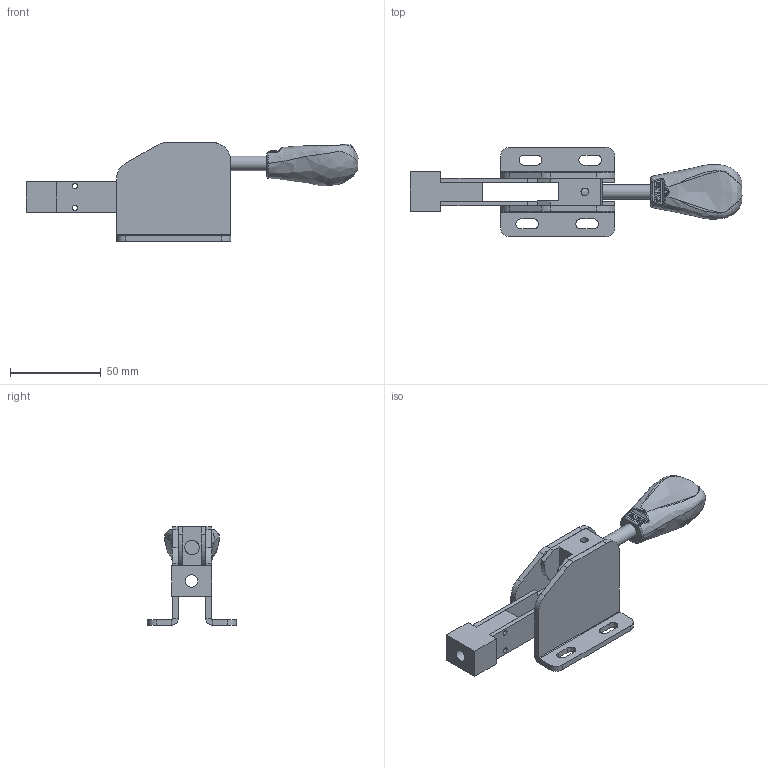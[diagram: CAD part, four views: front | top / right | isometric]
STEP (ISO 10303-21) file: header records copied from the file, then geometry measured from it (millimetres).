
FILE_DESCRIPTION(/* description */ (''),/* implementation_level */ '2;1');
FILE_NAME(/* name */ '\\192.168.1.150\pc03\Inventor\デュアルメカニズムクランプ最終\2017.10月　最新型\ＰＳＰ-33ＳＴ\PSP-33ST-CLAMP.stp',/* time_stamp */ '2024-05-16T13:11:54+09:00',/* author */ ('Backup'),/* organization */ (''),/* preprocessor_version */ 'ST-DEVELOPER v17',/* originating_system */ 'Autodesk Inventor 2019',/* authorisation */ '');
FILE_SCHEMA (('AUTOMOTIVE_DESIGN { 1 0 10303 214 3 1 1 }'));
Length unit declared in the file: millimetre
Products named in the file (8): psp-33st; YSP-BASE-PART1____; YSP-BASE-PART2____; YSP-SLIDE-ARM_2___; YSP-36CAM_; PART-1__; 50-30_VER4_PG2__12; Φ8×40ｼｬﾌﾄ
Assembly tree (8 placements, depth 2):
  psp-33st
    YSP-BASE-PART1____
    YSP-BASE-PART2____
    YSP-SLIDE-ARM_2___  x2
    YSP-36CAM_
    PART-1__
    50-30_VER4_PG2__12
    Φ8×40ｼｬﾌﾄ
Bounding box: 183.2 x 49.2 x 54.5 mm (x, y, z)
Volume: 69679.2 mm3; surface area: 38909.2 mm2
Topology: 8 solids, 8 shells, 226 faces, 600 edges, 394 vertices
Faces by surface type: plane 126, cylinder 71, bspline 24, sphere 4, cone 1
Full cylindrical faces by diameter (mm): 1.306 x1, 3 x6, 4.2 x1, 6 x1, 6.8 x1, 8 x2
Entity records: 16812 total; most frequent: CARTESIAN_POINT 11164, ORIENTED_EDGE 1140, DIRECTION 1097, EDGE_CURVE 570, AXIS2_PLACEMENT_3D 378, VERTEX_POINT 374, LINE 341, VECTOR 341
